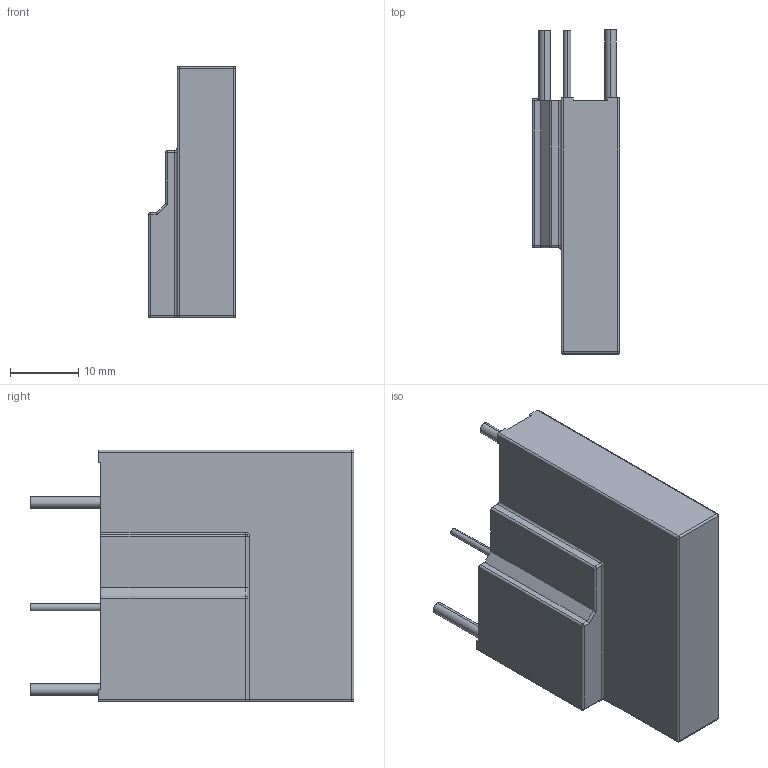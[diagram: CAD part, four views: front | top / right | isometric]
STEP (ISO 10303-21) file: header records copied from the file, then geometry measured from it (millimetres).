
FILE_DESCRIPTION((''),'2;1');
FILE_NAME('TFMOV34S','2020-07-15T13:26:17',('SET-00098'),(''),'CREO PARAMETRIC BY PTC INC, 2018400','CREO PARAMETRIC BY PTC INC, 2018400','');
FILE_SCHEMA(('CONFIG_CONTROL_DESIGN'));
Length unit declared in the file: millimetre
Products named in the file (1): TFMOV34S
Bounding box: 12.8 x 47.6 x 37 mm (x, y, z)
Volume: 13650.2 mm3; surface area: 4466.9 mm2
Topology: 1 solids, 1 shells, 69 faces, 165 edges, 101 vertices
Faces by surface type: plane 35, cylinder 25, sphere 7, torus 2
Entity records: 2019 total; most frequent: DIRECTION 349, CARTESIAN_POINT 349, ORIENTED_EDGE 330, EDGE_CURVE 165, AXIS2_PLACEMENT_3D 117, VECTOR 115, LINE 115, VERTEX_POINT 101
